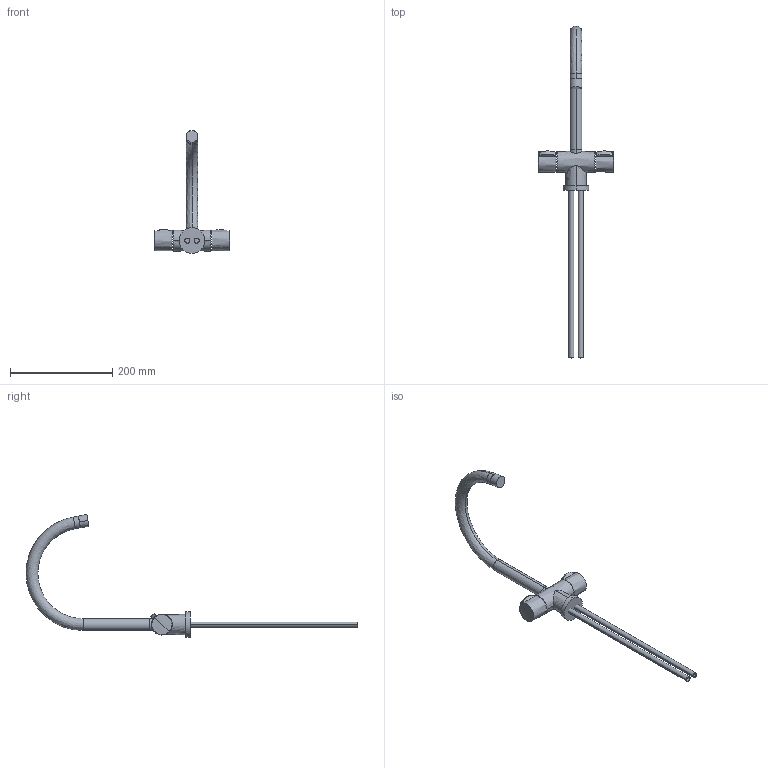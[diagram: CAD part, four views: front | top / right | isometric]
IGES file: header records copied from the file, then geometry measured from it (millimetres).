
Start section:  PTC IGES file: 62000_web.igs
Global section: file name: 62000_web.igs; native system: Creo Parametric by PTC Inc.; preprocessor: 2017380; author: jaj; organization: Unknown; date: 20180808.092558; units: millimetre
Bounding box: 146.6 x 647.7 x 239.57 mm (x, y, z)
Surface area: 117119.8 mm2 (no closed solid volume)
Topology: 0 solids, 0 shells, 54 faces, 352 edges, 404 vertices
Faces by surface type: revolution 44, bspline 10
